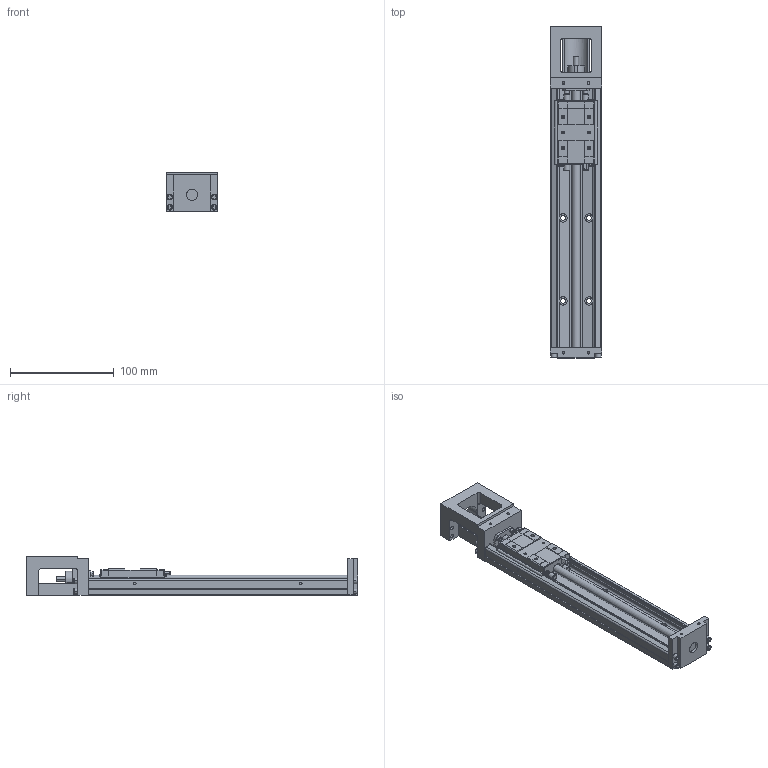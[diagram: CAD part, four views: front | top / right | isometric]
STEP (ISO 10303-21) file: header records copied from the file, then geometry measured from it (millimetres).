
FILE_DESCRIPTION(('no description'),'unknown implementation level');
FILE_NAME('KK5002P250A1F0000_FILE_13.stp',' ',('HIWIN GmbH'),('CADClick - KiM GmbH - www.kimweb.de'),'unknown preprocess','ACIS','unknown authorization');
FILE_SCHEMA(('automotive_design'));
Length unit declared in the file: millimetre
Products named in the file (2): KK50_FILE; KK5002P250A1F0000_FILE
Bounding box: 50 x 320 x 38.5 mm (x, y, z)
Volume: 240379.1 mm3; surface area: 79654.1 mm2
Topology: 2 solids, 10 shells, 664 faces, 1702 edges, 1075 vertices
Faces by surface type: plane 383, cylinder 189, cone 50, torus 42
Entity records: 39504 total; most frequent: CARTESIAN_POINT 4011, DIRECTION 3506, STYLED_ITEM 3409, PRESENTATION_STYLE_ASSIGNMENT 3409, COLOUR_RGB 3409, ORIENTED_EDGE 3336, EDGE_CURVE 1668, CURVE_STYLE 1668
